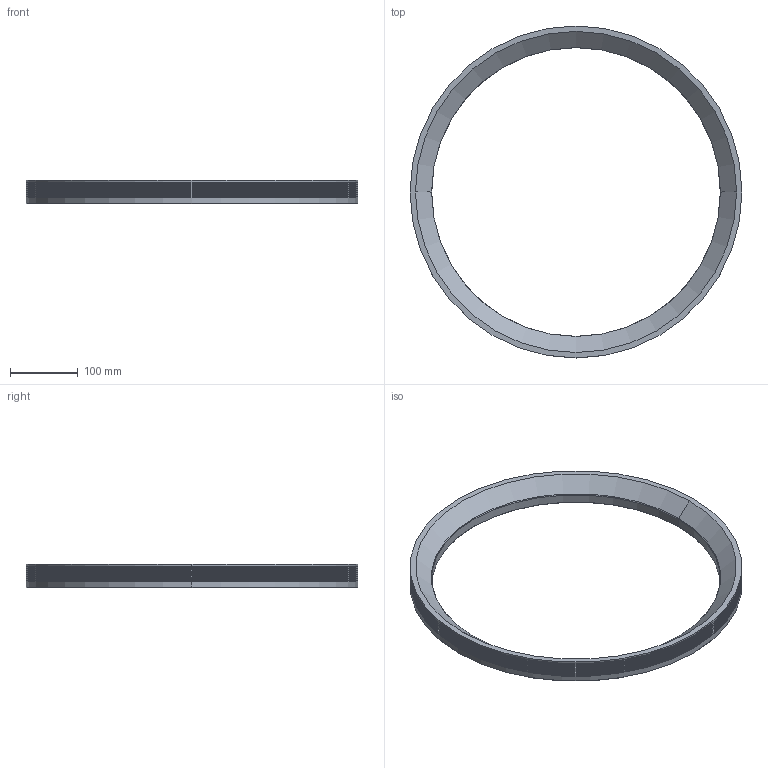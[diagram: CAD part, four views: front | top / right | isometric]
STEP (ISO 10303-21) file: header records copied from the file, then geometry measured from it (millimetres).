
FILE_DESCRIPTION((''),'2;1');
FILE_NAME('DRL7030','2020-03-28T',('ASUS'),(''),'PRO/ENGINEER BY PARAMETRIC TECHNOLOGY CORPORATION, 2008380','PRO/ENGINEER BY PARAMETRIC TECHNOLOGY CORPORATION, 2008380','');
FILE_SCHEMA(('CONFIG_CONTROL_DESIGN'));
Length unit declared in the file: millimetre
Products named in the file (1): DRL7030
Bounding box: 490 x 490 x 35 mm (x, y, z)
Volume: 1255586.2 mm3; surface area: 199763.3 mm2
Topology: 1 solids, 9 shells, 134 faces, 300 edges, 184 vertices
Faces by surface type: cylinder 68, cone 38, plane 26, torus 2
Entity records: 3705 total; most frequent: DIRECTION 732, CARTESIAN_POINT 603, ORIENTED_EDGE 536, AXIS2_PLACEMENT_3D 313, EDGE_CURVE 284, VERTEX_POINT 184, CIRCLE 178, EDGE_LOOP 168
